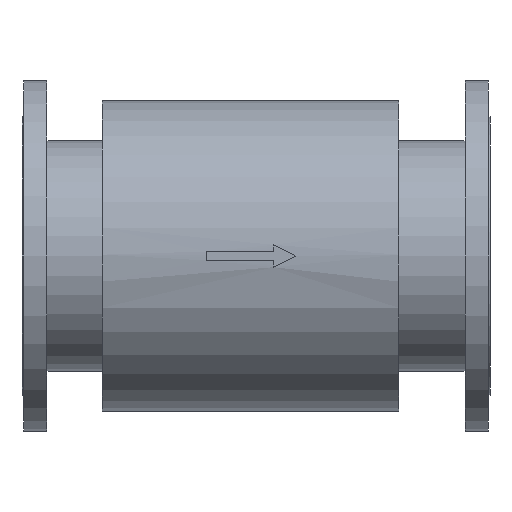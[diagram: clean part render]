
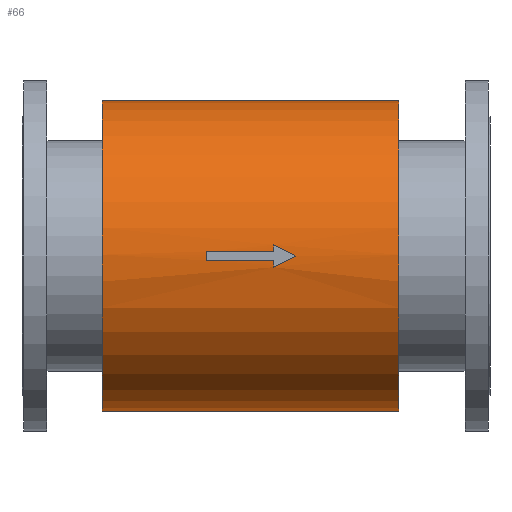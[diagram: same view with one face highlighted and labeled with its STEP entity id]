
A CAD part, front view. The second image highlights one B-rep face of the part: STEP entity #66.
In plain terms, the highlighted cylindrical face has radius 145.8 mm (diameter 291.6 mm), a partial arc.
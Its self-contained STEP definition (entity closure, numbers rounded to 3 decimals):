
#66=ADVANCED_FACE('',(#449,#450),#448,.T.);
#448=CYLINDRICAL_SURFACE('',#1299,145.8);
#449=FACE_OUTER_BOUND('',#1300,.T.);
#450=FACE_BOUND('',#1301,.T.);
#1296=CARTESIAN_POINT('',(1075.5,0.,0.));
#1297=DIRECTION('',(1.,0.,0.));
#1298=DIRECTION('',(0.,0.009,1.));
#1299=AXIS2_PLACEMENT_3D('',#1296,#1297,#1298);
#1300=EDGE_LOOP('',(#1832,#1833,#1834,#1835));
#1301=EDGE_LOOP('',(#1836,#1837,#1838,#1839,#1840,#1841,#1842));
#1832=ORIENTED_EDGE('',*,*,#2127,.T.);
#1833=ORIENTED_EDGE('',*,*,#2288,.F.);
#1834=ORIENTED_EDGE('',*,*,#2284,.F.);
#1835=ORIENTED_EDGE('',*,*,#2289,.T.);
#1836=ORIENTED_EDGE('',*,*,#2262,.F.);
#1837=ORIENTED_EDGE('',*,*,#2282,.F.);
#1838=ORIENTED_EDGE('',*,*,#2266,.F.);
#1839=ORIENTED_EDGE('',*,*,#2123,.F.);
#1840=ORIENTED_EDGE('',*,*,#2269,.F.);
#1841=ORIENTED_EDGE('',*,*,#2271,.F.);
#1842=ORIENTED_EDGE('',*,*,#2280,.F.);
#2123=EDGE_CURVE('',#2423,#2430,#2431,.T.);
#2127=EDGE_CURVE('',#2458,#2450,#2459,.T.);
#2262=EDGE_CURVE('',#3393,#3400,#3401,.T.);
#2266=EDGE_CURVE('',#2430,#3426,#3427,.T.);
#2269=EDGE_CURVE('',#3439,#2423,#3446,.T.);
#2271=EDGE_CURVE('',#3452,#3439,#3459,.T.);
#2280=EDGE_CURVE('',#3400,#3452,#3519,.T.);
#2282=EDGE_CURVE('',#3426,#3393,#3531,.T.);
#2284=EDGE_CURVE('',#3538,#3545,#3546,.T.);
#2288=EDGE_CURVE('',#3545,#2450,#3572,.T.);
#2289=EDGE_CURVE('',#3538,#2458,#3578,.T.);
#2423=VERTEX_POINT('',#4008);
#2430=VERTEX_POINT('',#4012);
#2431=(BOUNDED_CURVE() B_SPLINE_CURVE(2,(#4013,#4014,#4015),.UNSPECIFIED.,.F.,.F.) B_SPLINE_CURVE_WITH_KNOTS((3,3),(-4.784,-4.712),.UNSPECIFIED.) CURVE() GEOMETRIC_REPRESENTATION_ITEM() RATIONAL_B_SPLINE_CURVE((1.,0.999,1.)) REPRESENTATION_ITEM('') );
#2450=VERTEX_POINT('',#4023);
#2458=VERTEX_POINT('',#4029);
#2459=CIRCLE('',#4033,145.8);
#3393=VERTEX_POINT('',#4686);
#3400=VERTEX_POINT('',#4690);
#3401=LINE('',#4691,#4692);
#3426=VERTEX_POINT('',#4705);
#3427=(BOUNDED_CURVE() B_SPLINE_CURVE(2,(#4706,#4707,#4708),.UNSPECIFIED.,.F.,.F.) B_SPLINE_CURVE_WITH_KNOTS((3,3),(-1.571,-1.499),.UNSPECIFIED.) CURVE() GEOMETRIC_REPRESENTATION_ITEM() RATIONAL_B_SPLINE_CURVE((1.,0.999,1.)) REPRESENTATION_ITEM('') );
#3439=VERTEX_POINT('',#4712);
#3446=CIRCLE('',#4719,145.8);
#3452=VERTEX_POINT('',#4720);
#3459=LINE('',#4724,#4725);
#3519=CIRCLE('',#4765,145.8);
#3531=CIRCLE('',#4772,145.8);
#3538=VERTEX_POINT('',#4774);
#3545=VERTEX_POINT('',#4779);
#3546=CIRCLE('',#4783,145.8);
#3572=(BOUNDED_CURVE() B_SPLINE_CURVE(1,(#4798,#4799),.UNSPECIFIED.,.F.,.F.) B_SPLINE_CURVE_WITH_KNOTS((2,2),(0.034,0.966),.UNSPECIFIED.) CURVE() GEOMETRIC_REPRESENTATION_ITEM() RATIONAL_B_SPLINE_CURVE((1.,1.)) REPRESENTATION_ITEM('') );
#3578=(BOUNDED_CURVE() B_SPLINE_CURVE(1,(#4800,#4801),.UNSPECIFIED.,.F.,.F.) B_SPLINE_CURVE_WITH_KNOTS((2,2),(0.034,0.966),.UNSPECIFIED.) CURVE() GEOMETRIC_REPRESENTATION_ITEM() RATIONAL_B_SPLINE_CURVE((0.75,0.75)) REPRESENTATION_ITEM('') );
#4008=CARTESIAN_POINT('',(236.5,-145.421,-10.5));
#4012=CARTESIAN_POINT('',(257.5,-145.8,0.));
#4013=CARTESIAN_POINT('',(236.5,-145.421,-10.5));
#4014=CARTESIAN_POINT('',(246.986,-145.8,-5.257));
#4015=CARTESIAN_POINT('',(257.5,-145.8,0.));
#4023=CARTESIAN_POINT('',(354.,1.272,145.794));
#4029=CARTESIAN_POINT('',(354.,-1.272,-145.794));
#4030=CARTESIAN_POINT('',(354.,0.,0.));
#4031=DIRECTION('',(-1.,0.,0.));
#4032=DIRECTION('',(0.,0.,-1.));
#4033=AXIS2_PLACEMENT_3D('',#4030,#4031,#4032);
#4686=CARTESIAN_POINT('',(236.5,-145.739,4.2));
#4690=CARTESIAN_POINT('',(173.5,-145.739,4.2));
#4691=CARTESIAN_POINT('',(236.5,-145.739,4.2));
#4692=VECTOR('',#4693,63.);
#4693=DIRECTION('',(-1.,0.,0.));
#4705=CARTESIAN_POINT('',(236.5,-145.421,10.5));
#4706=CARTESIAN_POINT('',(257.5,-145.8,0.));
#4707=CARTESIAN_POINT('',(246.986,-145.8,5.257));
#4708=CARTESIAN_POINT('',(236.5,-145.421,10.5));
#4712=CARTESIAN_POINT('',(236.5,-145.739,-4.2));
#4716=CARTESIAN_POINT('',(236.5,0.,0.));
#4717=DIRECTION('',(1.,0.,0.));
#4718=DIRECTION('',(0.,0.,-1.));
#4719=AXIS2_PLACEMENT_3D('',#4716,#4717,#4718);
#4720=CARTESIAN_POINT('',(173.5,-145.739,-4.2));
#4724=CARTESIAN_POINT('',(173.5,-145.739,-4.2));
#4725=VECTOR('',#4726,63.);
#4726=DIRECTION('',(1.,0.,0.));
#4762=CARTESIAN_POINT('',(173.5,0.,0.));
#4763=DIRECTION('',(1.,0.,0.));
#4764=DIRECTION('',(0.,0.,-1.));
#4765=AXIS2_PLACEMENT_3D('',#4762,#4763,#4764);
#4769=CARTESIAN_POINT('',(236.5,0.,0.));
#4770=DIRECTION('',(1.,0.,0.));
#4771=DIRECTION('',(0.,0.,-1.));
#4772=AXIS2_PLACEMENT_3D('',#4769,#4770,#4771);
#4774=CARTESIAN_POINT('',(75.5,-1.272,-145.794));
#4779=CARTESIAN_POINT('',(75.5,1.272,145.794));
#4780=CARTESIAN_POINT('',(75.5,0.,0.));
#4781=DIRECTION('',(-1.,0.,0.));
#4782=DIRECTION('',(0.,0.,-1.));
#4783=AXIS2_PLACEMENT_3D('',#4780,#4781,#4782);
#4798=CARTESIAN_POINT('',(75.5,1.272,145.794));
#4799=CARTESIAN_POINT('',(354.,1.272,145.794));
#4800=CARTESIAN_POINT('',(75.5,-1.272,-145.794));
#4801=CARTESIAN_POINT('',(354.,-1.272,-145.794));
